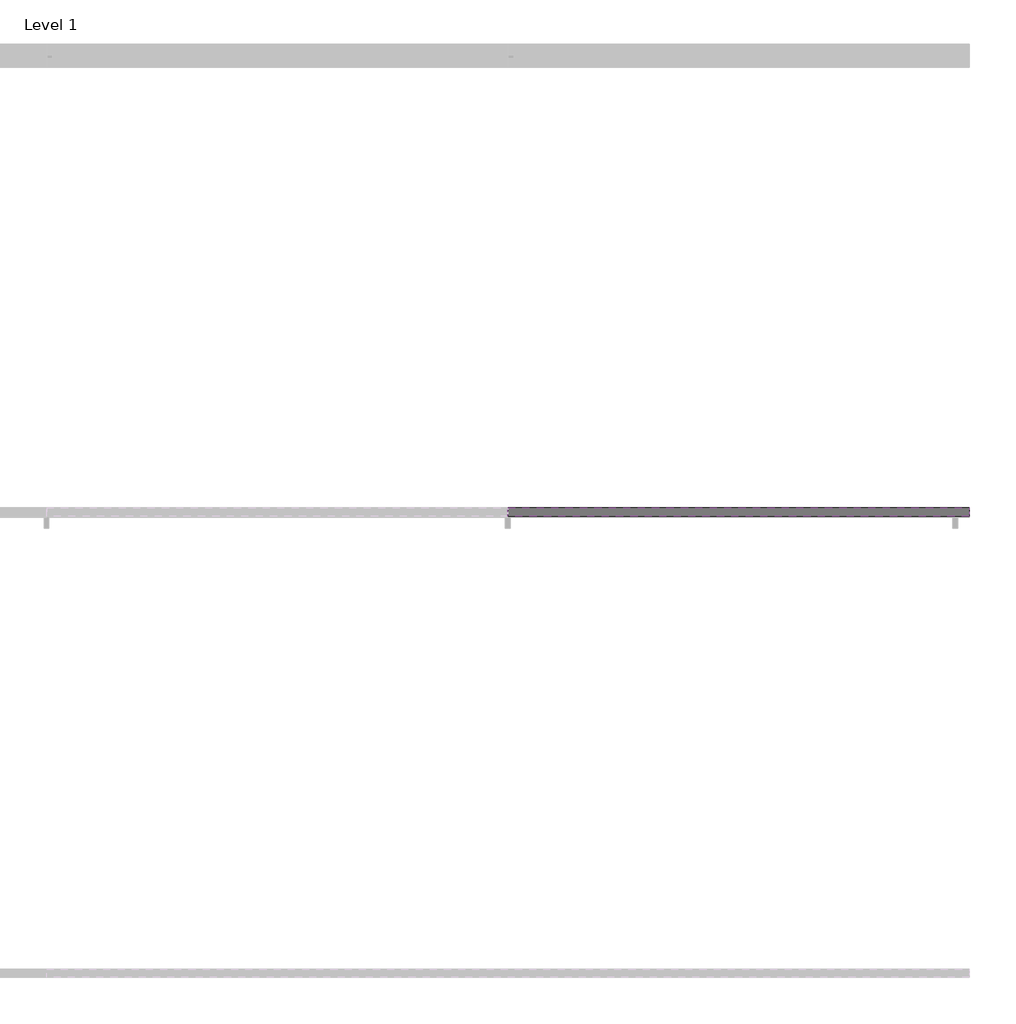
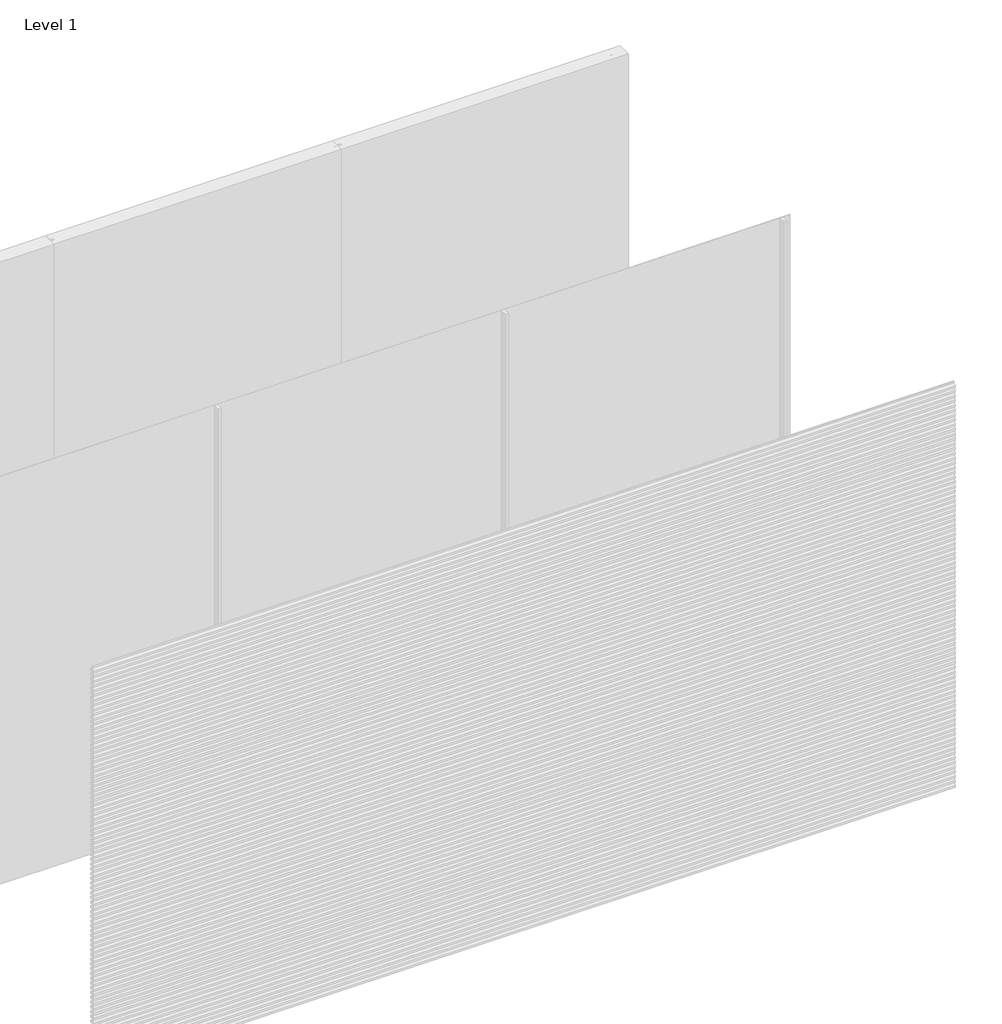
# One storey, part 13 of 17: 81 proxies.
"""IFC4 building model written with IfcOpenShell, lengths in millimetres."""

from ifc_helpers import new_model, si_unit, frame, origin, place, context, project, spatial, polyline, outline, extrude, element, save

model = new_model("IFC4")

# Units and contexts
model_context = context("Model", 3, world=origin())
ifc_project = project(units=[si_unit("LENGTHUNIT", "METRE", prefix="MILLI")], contexts=[model_context])

# Site, building, storey
site = spatial("IfcSite", under=ifc_project)
building = spatial("IfcBuilding", under=site)
storey = spatial("IfcBuildingStorey", under=building, Name="Level 1", Elevation=0.0)

# Proxies
placement = place(None, origin())
element("IfcBuildingElementProxy", 1, Name="Wall Sweeps", at=placement, inside=storey, context=model_context, shape_type="SweptSolid", body=[
    extrude(outline(polyline([(-5961.0, 2916.5), (-5961.0, 2901.5), (-5979.0, 2913.6411533), (-5997.0, 2901.5), (-5997.0, 2916.5), (-5980.0, 2927.9666448), (-5980.0, 2940.0), (-5978.0, 2940.0), (-5978.0, 2927.9666448), (-5961.0, 2916.5)])), frame((4000.0, 0.0, 0.0), z_axis=(1.0, 0.0, 0.0), x_axis=(0.0, 1.0, 0.0)), (0.0, 0.0, 1.0), 2000.0),
])
element("IfcBuildingElementProxy", 2, Name="Wall Sweeps", at=placement, inside=storey, context=model_context, shape_type="SweptSolid", body=[
    extrude(outline(polyline([(-5961.0, 2881.5), (-5961.0, 2866.5), (-5979.0, 2878.6411533), (-5997.0, 2866.5), (-5997.0, 2881.5), (-5980.0, 2892.9666448), (-5980.0, 2905.0), (-5978.0, 2905.0), (-5978.0, 2892.9666448), (-5961.0, 2881.5)])), frame((4000.0, 0.0, 0.0), z_axis=(1.0, 0.0, 0.0), x_axis=(0.0, 1.0, 0.0)), (0.0, 0.0, 1.0), 2000.0),
])
element("IfcBuildingElementProxy", 3, Name="Wall Sweeps", at=placement, inside=storey, context=model_context, shape_type="SweptSolid", body=[
    extrude(outline(polyline([(-5961.0, 2846.5), (-5961.0, 2831.5), (-5979.0, 2843.6411533), (-5997.0, 2831.5), (-5997.0, 2846.5), (-5980.0, 2857.9666448), (-5980.0, 2870.0), (-5978.0, 2870.0), (-5978.0, 2857.9666448), (-5961.0, 2846.5)])), frame((4000.0, 0.0, 0.0), z_axis=(1.0, 0.0, 0.0), x_axis=(0.0, 1.0, 0.0)), (0.0, 0.0, 1.0), 2000.0),
])
element("IfcBuildingElementProxy", 4, Name="Wall Sweeps", at=placement, inside=storey, context=model_context, shape_type="SweptSolid", body=[
    extrude(outline(polyline([(-5961.0, 2811.5), (-5961.0, 2796.5), (-5979.0, 2808.6411533), (-5997.0, 2796.5), (-5997.0, 2811.5), (-5980.0, 2822.9666448), (-5980.0, 2835.0), (-5978.0, 2835.0), (-5978.0, 2822.9666448), (-5961.0, 2811.5)])), frame((4000.0, 0.0, 0.0), z_axis=(1.0, 0.0, 0.0), x_axis=(0.0, 1.0, 0.0)), (0.0, 0.0, 1.0), 2000.0),
])
element("IfcBuildingElementProxy", 5, Name="Wall Sweeps", at=placement, inside=storey, context=model_context, shape_type="SweptSolid", body=[
    extrude(outline(polyline([(-5961.0, 2776.5), (-5961.0, 2761.5), (-5979.0, 2773.6411533), (-5997.0, 2761.5), (-5997.0, 2776.5), (-5980.0, 2787.9666448), (-5980.0, 2800.0), (-5978.0, 2800.0), (-5978.0, 2787.9666448), (-5961.0, 2776.5)])), frame((4000.0, 0.0, 0.0), z_axis=(1.0, 0.0, 0.0), x_axis=(0.0, 1.0, 0.0)), (0.0, 0.0, 1.0), 2000.0),
])
element("IfcBuildingElementProxy", 6, Name="Wall Sweeps", at=placement, inside=storey, context=model_context, shape_type="SweptSolid", body=[
    extrude(outline(polyline([(-5961.0, 2741.5), (-5961.0, 2726.5), (-5979.0, 2738.6411533), (-5997.0, 2726.5), (-5997.0, 2741.5), (-5980.0, 2752.9666448), (-5980.0, 2765.0), (-5978.0, 2765.0), (-5978.0, 2752.9666448), (-5961.0, 2741.5)])), frame((4000.0, 0.0, 0.0), z_axis=(1.0, 0.0, 0.0), x_axis=(0.0, 1.0, 0.0)), (0.0, 0.0, 1.0), 2000.0),
])
element("IfcBuildingElementProxy", 7, Name="Wall Sweeps", at=placement, inside=storey, context=model_context, shape_type="SweptSolid", body=[
    extrude(outline(polyline([(-5961.0, 2706.5), (-5961.0, 2691.5), (-5979.0, 2703.6411533), (-5997.0, 2691.5), (-5997.0, 2706.5), (-5980.0, 2717.9666448), (-5980.0, 2730.0), (-5978.0, 2730.0), (-5978.0, 2717.9666448), (-5961.0, 2706.5)])), frame((4000.0, 0.0, 0.0), z_axis=(1.0, 0.0, 0.0), x_axis=(0.0, 1.0, 0.0)), (0.0, 0.0, 1.0), 2000.0),
])
element("IfcBuildingElementProxy", 8, Name="Wall Sweeps", at=placement, inside=storey, context=model_context, shape_type="SweptSolid", body=[
    extrude(outline(polyline([(-5961.0, 2671.5), (-5961.0, 2656.5), (-5979.0, 2668.6411533), (-5997.0, 2656.5), (-5997.0, 2671.5), (-5980.0, 2682.9666448), (-5980.0, 2695.0), (-5978.0, 2695.0), (-5978.0, 2682.9666448), (-5961.0, 2671.5)])), frame((4000.0, 0.0, 0.0), z_axis=(1.0, 0.0, 0.0), x_axis=(0.0, 1.0, 0.0)), (0.0, 0.0, 1.0), 2000.0),
])
element("IfcBuildingElementProxy", 9, Name="Wall Sweeps", at=placement, inside=storey, context=model_context, shape_type="SweptSolid", body=[
    extrude(outline(polyline([(-5961.0, 2636.5), (-5961.0, 2621.5), (-5979.0, 2633.6411533), (-5997.0, 2621.5), (-5997.0, 2636.5), (-5980.0, 2647.9666448), (-5980.0, 2660.0), (-5978.0, 2660.0), (-5978.0, 2647.9666448), (-5961.0, 2636.5)])), frame((4000.0, 0.0, 0.0), z_axis=(1.0, 0.0, 0.0), x_axis=(0.0, 1.0, 0.0)), (0.0, 0.0, 1.0), 2000.0),
])
element("IfcBuildingElementProxy", 10, Name="Wall Sweeps", at=placement, inside=storey, context=model_context, shape_type="SweptSolid", body=[
    extrude(outline(polyline([(-5961.0, 2601.5), (-5961.0, 2586.5), (-5979.0, 2598.6411533), (-5997.0, 2586.5), (-5997.0, 2601.5), (-5980.0, 2612.9666448), (-5980.0, 2625.0), (-5978.0, 2625.0), (-5978.0, 2612.9666448), (-5961.0, 2601.5)])), frame((4000.0, 0.0, 0.0), z_axis=(1.0, 0.0, 0.0), x_axis=(0.0, 1.0, 0.0)), (0.0, 0.0, 1.0), 2000.0),
])
element("IfcBuildingElementProxy", 11, Name="Wall Sweeps", at=placement, inside=storey, context=model_context, shape_type="SweptSolid", body=[
    extrude(outline(polyline([(-5961.0, 2566.5), (-5961.0, 2551.5), (-5979.0, 2563.6411533), (-5997.0, 2551.5), (-5997.0, 2566.5), (-5980.0, 2577.9666448), (-5980.0, 2590.0), (-5978.0, 2590.0), (-5978.0, 2577.9666448), (-5961.0, 2566.5)])), frame((4000.0, 0.0, 0.0), z_axis=(1.0, 0.0, 0.0), x_axis=(0.0, 1.0, 0.0)), (0.0, 0.0, 1.0), 2000.0),
])
element("IfcBuildingElementProxy", 12, Name="Wall Sweeps", at=placement, inside=storey, context=model_context, shape_type="SweptSolid", body=[
    extrude(outline(polyline([(-5961.0, 2531.5), (-5961.0, 2516.5), (-5979.0, 2528.6411533), (-5997.0, 2516.5), (-5997.0, 2531.5), (-5980.0, 2542.9666448), (-5980.0, 2555.0), (-5978.0, 2555.0), (-5978.0, 2542.9666448), (-5961.0, 2531.5)])), frame((4000.0, 0.0, 0.0), z_axis=(1.0, 0.0, 0.0), x_axis=(0.0, 1.0, 0.0)), (0.0, 0.0, 1.0), 2000.0),
])
element("IfcBuildingElementProxy", 13, Name="Wall Sweeps", at=placement, inside=storey, context=model_context, shape_type="SweptSolid", body=[
    extrude(outline(polyline([(-5961.0, 2496.5), (-5961.0, 2481.5), (-5979.0, 2493.6411533), (-5997.0, 2481.5), (-5997.0, 2496.5), (-5980.0, 2507.9666448), (-5980.0, 2520.0), (-5978.0, 2520.0), (-5978.0, 2507.9666448), (-5961.0, 2496.5)])), frame((4000.0, 0.0, 0.0), z_axis=(1.0, 0.0, 0.0), x_axis=(0.0, 1.0, 0.0)), (0.0, 0.0, 1.0), 2000.0),
])
element("IfcBuildingElementProxy", 14, Name="Wall Sweeps", at=placement, inside=storey, context=model_context, shape_type="SweptSolid", body=[
    extrude(outline(polyline([(-5961.0, 2461.5), (-5961.0, 2446.5), (-5979.0, 2458.6411533), (-5997.0, 2446.5), (-5997.0, 2461.5), (-5980.0, 2472.9666448), (-5980.0, 2485.0), (-5978.0, 2485.0), (-5978.0, 2472.9666448), (-5961.0, 2461.5)])), frame((4000.0, 0.0, 0.0), z_axis=(1.0, 0.0, 0.0), x_axis=(0.0, 1.0, 0.0)), (0.0, 0.0, 1.0), 2000.0),
])
element("IfcBuildingElementProxy", 15, Name="Wall Sweeps", at=placement, inside=storey, context=model_context, shape_type="SweptSolid", body=[
    extrude(outline(polyline([(-5961.0, 2426.5), (-5961.0, 2411.5), (-5979.0, 2423.6411533), (-5997.0, 2411.5), (-5997.0, 2426.5), (-5980.0, 2437.9666448), (-5980.0, 2450.0), (-5978.0, 2450.0), (-5978.0, 2437.9666448), (-5961.0, 2426.5)])), frame((4000.0, 0.0, 0.0), z_axis=(1.0, 0.0, 0.0), x_axis=(0.0, 1.0, 0.0)), (0.0, 0.0, 1.0), 2000.0),
])
element("IfcBuildingElementProxy", 16, Name="Wall Sweeps", at=placement, inside=storey, context=model_context, shape_type="SweptSolid", body=[
    extrude(outline(polyline([(-5961.0, 2391.5), (-5961.0, 2376.5), (-5979.0, 2388.6411533), (-5997.0, 2376.5), (-5997.0, 2391.5), (-5980.0, 2402.9666448), (-5980.0, 2415.0), (-5978.0, 2415.0), (-5978.0, 2402.9666448), (-5961.0, 2391.5)])), frame((4000.0, 0.0, 0.0), z_axis=(1.0, 0.0, 0.0), x_axis=(0.0, 1.0, 0.0)), (0.0, 0.0, 1.0), 2000.0),
])
element("IfcBuildingElementProxy", 17, Name="Wall Sweeps", at=placement, inside=storey, context=model_context, shape_type="SweptSolid", body=[
    extrude(outline(polyline([(-5961.0, 2356.5), (-5961.0, 2341.5), (-5979.0, 2353.6411533), (-5997.0, 2341.5), (-5997.0, 2356.5), (-5980.0, 2367.9666448), (-5980.0, 2380.0), (-5978.0, 2380.0), (-5978.0, 2367.9666448), (-5961.0, 2356.5)])), frame((4000.0, 0.0, 0.0), z_axis=(1.0, 0.0, 0.0), x_axis=(0.0, 1.0, 0.0)), (0.0, 0.0, 1.0), 2000.0),
])
element("IfcBuildingElementProxy", 18, Name="Wall Sweeps", at=placement, inside=storey, context=model_context, shape_type="SweptSolid", body=[
    extrude(outline(polyline([(-5961.0, 2321.5), (-5961.0, 2306.5), (-5979.0, 2318.6411533), (-5997.0, 2306.5), (-5997.0, 2321.5), (-5980.0, 2332.9666448), (-5980.0, 2345.0), (-5978.0, 2345.0), (-5978.0, 2332.9666448), (-5961.0, 2321.5)])), frame((4000.0, 0.0, 0.0), z_axis=(1.0, 0.0, 0.0), x_axis=(0.0, 1.0, 0.0)), (0.0, 0.0, 1.0), 2000.0),
])
element("IfcBuildingElementProxy", 19, Name="Wall Sweeps", at=placement, inside=storey, context=model_context, shape_type="SweptSolid", body=[
    extrude(outline(polyline([(-5961.0, 2286.5), (-5961.0, 2271.5), (-5979.0, 2283.6411533), (-5997.0, 2271.5), (-5997.0, 2286.5), (-5980.0, 2297.9666448), (-5980.0, 2310.0), (-5978.0, 2310.0), (-5978.0, 2297.9666448), (-5961.0, 2286.5)])), frame((4000.0, 0.0, 0.0), z_axis=(1.0, 0.0, 0.0), x_axis=(0.0, 1.0, 0.0)), (0.0, 0.0, 1.0), 2000.0),
])
element("IfcBuildingElementProxy", 20, Name="Wall Sweeps", at=placement, inside=storey, context=model_context, shape_type="SweptSolid", body=[
    extrude(outline(polyline([(-5961.0, 2251.5), (-5961.0, 2236.5), (-5979.0, 2248.6411533), (-5997.0, 2236.5), (-5997.0, 2251.5), (-5980.0, 2262.9666448), (-5980.0, 2275.0), (-5978.0, 2275.0), (-5978.0, 2262.9666448), (-5961.0, 2251.5)])), frame((4000.0, 0.0, 0.0), z_axis=(1.0, 0.0, 0.0), x_axis=(0.0, 1.0, 0.0)), (0.0, 0.0, 1.0), 2000.0),
])
element("IfcBuildingElementProxy", 21, Name="Wall Sweeps", at=placement, inside=storey, context=model_context, shape_type="SweptSolid", body=[
    extrude(outline(polyline([(-5961.0, 2216.5), (-5961.0, 2201.5), (-5979.0, 2213.6411533), (-5997.0, 2201.5), (-5997.0, 2216.5), (-5980.0, 2227.9666448), (-5980.0, 2240.0), (-5978.0, 2240.0), (-5978.0, 2227.9666448), (-5961.0, 2216.5)])), frame((4000.0, 0.0, 0.0), z_axis=(1.0, 0.0, 0.0), x_axis=(0.0, 1.0, 0.0)), (0.0, 0.0, 1.0), 2000.0),
])
element("IfcBuildingElementProxy", 22, Name="Wall Sweeps", at=placement, inside=storey, context=model_context, shape_type="SweptSolid", body=[
    extrude(outline(polyline([(-5961.0, 2181.5), (-5961.0, 2166.5), (-5979.0, 2178.6411533), (-5997.0, 2166.5), (-5997.0, 2181.5), (-5980.0, 2192.9666448), (-5980.0, 2205.0), (-5978.0, 2205.0), (-5978.0, 2192.9666448), (-5961.0, 2181.5)])), frame((4000.0, 0.0, 0.0), z_axis=(1.0, 0.0, 0.0), x_axis=(0.0, 1.0, 0.0)), (0.0, 0.0, 1.0), 2000.0),
])
element("IfcBuildingElementProxy", 23, Name="Wall Sweeps", at=placement, inside=storey, context=model_context, shape_type="SweptSolid", body=[
    extrude(outline(polyline([(-5961.0, 2146.5), (-5961.0, 2131.5), (-5979.0, 2143.6411533), (-5997.0, 2131.5), (-5997.0, 2146.5), (-5980.0, 2157.9666448), (-5980.0, 2170.0), (-5978.0, 2170.0), (-5978.0, 2157.9666448), (-5961.0, 2146.5)])), frame((4000.0, 0.0, 0.0), z_axis=(1.0, 0.0, 0.0), x_axis=(0.0, 1.0, 0.0)), (0.0, 0.0, 1.0), 2000.0),
])
element("IfcBuildingElementProxy", 24, Name="Wall Sweeps", at=placement, inside=storey, context=model_context, shape_type="SweptSolid", body=[
    extrude(outline(polyline([(-5961.0, 2111.5), (-5961.0, 2096.5), (-5979.0, 2108.6411533), (-5997.0, 2096.5), (-5997.0, 2111.5), (-5980.0, 2122.9666448), (-5980.0, 2135.0), (-5978.0, 2135.0), (-5978.0, 2122.9666448), (-5961.0, 2111.5)])), frame((4000.0, 0.0, 0.0), z_axis=(1.0, 0.0, 0.0), x_axis=(0.0, 1.0, 0.0)), (0.0, 0.0, 1.0), 2000.0),
])
element("IfcBuildingElementProxy", 25, Name="Wall Sweeps", at=placement, inside=storey, context=model_context, shape_type="SweptSolid", body=[
    extrude(outline(polyline([(-5961.0, 2076.5), (-5961.0, 2061.5), (-5979.0, 2073.6411533), (-5997.0, 2061.5), (-5997.0, 2076.5), (-5980.0, 2087.9666448), (-5980.0, 2100.0), (-5978.0, 2100.0), (-5978.0, 2087.9666448), (-5961.0, 2076.5)])), frame((4000.0, 0.0, 0.0), z_axis=(1.0, 0.0, 0.0), x_axis=(0.0, 1.0, 0.0)), (0.0, 0.0, 1.0), 2000.0),
])
element("IfcBuildingElementProxy", 26, Name="Wall Sweeps", at=placement, inside=storey, context=model_context, shape_type="SweptSolid", body=[
    extrude(outline(polyline([(-5961.0, 2041.5), (-5961.0, 2026.5), (-5979.0, 2038.6411533), (-5997.0, 2026.5), (-5997.0, 2041.5), (-5980.0, 2052.9666448), (-5980.0, 2065.0), (-5978.0, 2065.0), (-5978.0, 2052.9666448), (-5961.0, 2041.5)])), frame((4000.0, 0.0, 0.0), z_axis=(1.0, 0.0, 0.0), x_axis=(0.0, 1.0, 0.0)), (0.0, 0.0, 1.0), 2000.0),
])
element("IfcBuildingElementProxy", 27, Name="Wall Sweeps", at=placement, inside=storey, context=model_context, shape_type="SweptSolid", body=[
    extrude(outline(polyline([(-5961.0, 2006.5), (-5961.0, 1991.5), (-5979.0, 2003.6411533), (-5997.0, 1991.5), (-5997.0, 2006.5), (-5980.0, 2017.9666448), (-5980.0, 2030.0), (-5978.0, 2030.0), (-5978.0, 2017.9666448), (-5961.0, 2006.5)])), frame((4000.0, 0.0, 0.0), z_axis=(1.0, 0.0, 0.0), x_axis=(0.0, 1.0, 0.0)), (0.0, 0.0, 1.0), 2000.0),
])
element("IfcBuildingElementProxy", 28, Name="Wall Sweeps", at=placement, inside=storey, context=model_context, shape_type="SweptSolid", body=[
    extrude(outline(polyline([(-5961.0, 1971.5), (-5961.0, 1956.5), (-5979.0, 1968.6411533), (-5997.0, 1956.5), (-5997.0, 1971.5), (-5980.0, 1982.9666448), (-5980.0, 1995.0), (-5978.0, 1995.0), (-5978.0, 1982.9666448), (-5961.0, 1971.5)])), frame((4000.0, 0.0, 0.0), z_axis=(1.0, 0.0, 0.0), x_axis=(0.0, 1.0, 0.0)), (0.0, 0.0, 1.0), 2000.0),
])
element("IfcBuildingElementProxy", 29, Name="Wall Sweeps", at=placement, inside=storey, context=model_context, shape_type="SweptSolid", body=[
    extrude(outline(polyline([(-5961.0, 1936.5), (-5961.0, 1921.5), (-5979.0, 1933.6411533), (-5997.0, 1921.5), (-5997.0, 1936.5), (-5980.0, 1947.9666448), (-5980.0, 1960.0), (-5978.0, 1960.0), (-5978.0, 1947.9666448), (-5961.0, 1936.5)])), frame((4000.0, 0.0, 0.0), z_axis=(1.0, 0.0, 0.0), x_axis=(0.0, 1.0, 0.0)), (0.0, 0.0, 1.0), 2000.0),
])
element("IfcBuildingElementProxy", 30, Name="Wall Sweeps", at=placement, inside=storey, context=model_context, shape_type="SweptSolid", body=[
    extrude(outline(polyline([(-5961.0, 1901.5), (-5961.0, 1886.5), (-5979.0, 1898.6411533), (-5997.0, 1886.5), (-5997.0, 1901.5), (-5980.0, 1912.9666448), (-5980.0, 1925.0), (-5978.0, 1925.0), (-5978.0, 1912.9666448), (-5961.0, 1901.5)])), frame((4000.0, 0.0, 0.0), z_axis=(1.0, 0.0, 0.0), x_axis=(0.0, 1.0, 0.0)), (0.0, 0.0, 1.0), 2000.0),
])
element("IfcBuildingElementProxy", 31, Name="Wall Sweeps", at=placement, inside=storey, context=model_context, shape_type="SweptSolid", body=[
    extrude(outline(polyline([(-5961.0, 1866.5), (-5961.0, 1851.5), (-5979.0, 1863.6411533), (-5997.0, 1851.5), (-5997.0, 1866.5), (-5980.0, 1877.9666448), (-5980.0, 1890.0), (-5978.0, 1890.0), (-5978.0, 1877.9666448), (-5961.0, 1866.5)])), frame((4000.0, 0.0, 0.0), z_axis=(1.0, 0.0, 0.0), x_axis=(0.0, 1.0, 0.0)), (0.0, 0.0, 1.0), 2000.0),
])
element("IfcBuildingElementProxy", 32, Name="Wall Sweeps", at=placement, inside=storey, context=model_context, shape_type="SweptSolid", body=[
    extrude(outline(polyline([(-5961.0, 1831.5), (-5961.0, 1816.5), (-5979.0, 1828.6411533), (-5997.0, 1816.5), (-5997.0, 1831.5), (-5980.0, 1842.9666448), (-5980.0, 1855.0), (-5978.0, 1855.0), (-5978.0, 1842.9666448), (-5961.0, 1831.5)])), frame((4000.0, 0.0, 0.0), z_axis=(1.0, 0.0, 0.0), x_axis=(0.0, 1.0, 0.0)), (0.0, 0.0, 1.0), 2000.0),
])
element("IfcBuildingElementProxy", 33, Name="Wall Sweeps", at=placement, inside=storey, context=model_context, shape_type="SweptSolid", body=[
    extrude(outline(polyline([(-5961.0, 1796.5), (-5961.0, 1781.5), (-5979.0, 1793.6411533), (-5997.0, 1781.5), (-5997.0, 1796.5), (-5980.0, 1807.9666448), (-5980.0, 1820.0), (-5978.0, 1820.0), (-5978.0, 1807.9666448), (-5961.0, 1796.5)])), frame((4000.0, 0.0, 0.0), z_axis=(1.0, 0.0, 0.0), x_axis=(0.0, 1.0, 0.0)), (0.0, 0.0, 1.0), 2000.0),
])
element("IfcBuildingElementProxy", 34, Name="Wall Sweeps", at=placement, inside=storey, context=model_context, shape_type="SweptSolid", body=[
    extrude(outline(polyline([(-5961.0, 1761.5), (-5961.0, 1746.5), (-5979.0, 1758.6411533), (-5997.0, 1746.5), (-5997.0, 1761.5), (-5980.0, 1772.9666448), (-5980.0, 1785.0), (-5978.0, 1785.0), (-5978.0, 1772.9666448), (-5961.0, 1761.5)])), frame((4000.0, 0.0, 0.0), z_axis=(1.0, 0.0, 0.0), x_axis=(0.0, 1.0, 0.0)), (0.0, 0.0, 1.0), 2000.0),
])
element("IfcBuildingElementProxy", 35, Name="Wall Sweeps", at=placement, inside=storey, context=model_context, shape_type="SweptSolid", body=[
    extrude(outline(polyline([(-5961.0, 1726.5), (-5961.0, 1711.5), (-5979.0, 1723.6411533), (-5997.0, 1711.5), (-5997.0, 1726.5), (-5980.0, 1737.9666448), (-5980.0, 1750.0), (-5978.0, 1750.0), (-5978.0, 1737.9666448), (-5961.0, 1726.5)])), frame((4000.0, 0.0, 0.0), z_axis=(1.0, 0.0, 0.0), x_axis=(0.0, 1.0, 0.0)), (0.0, 0.0, 1.0), 2000.0),
])
element("IfcBuildingElementProxy", 36, Name="Wall Sweeps", at=placement, inside=storey, context=model_context, shape_type="SweptSolid", body=[
    extrude(outline(polyline([(-5961.0, 1691.5), (-5961.0, 1676.5), (-5979.0, 1688.6411533), (-5997.0, 1676.5), (-5997.0, 1691.5), (-5980.0, 1702.9666448), (-5980.0, 1715.0), (-5978.0, 1715.0), (-5978.0, 1702.9666448), (-5961.0, 1691.5)])), frame((4000.0, 0.0, 0.0), z_axis=(1.0, 0.0, 0.0), x_axis=(0.0, 1.0, 0.0)), (0.0, 0.0, 1.0), 2000.0),
])
element("IfcBuildingElementProxy", 37, Name="Wall Sweeps", at=placement, inside=storey, context=model_context, shape_type="SweptSolid", body=[
    extrude(outline(polyline([(-5961.0, 1656.5), (-5961.0, 1641.5), (-5979.0, 1653.6411533), (-5997.0, 1641.5), (-5997.0, 1656.5), (-5980.0, 1667.9666448), (-5980.0, 1680.0), (-5978.0, 1680.0), (-5978.0, 1667.9666448), (-5961.0, 1656.5)])), frame((4000.0, 0.0, 0.0), z_axis=(1.0, 0.0, 0.0), x_axis=(0.0, 1.0, 0.0)), (0.0, 0.0, 1.0), 2000.0),
])
element("IfcBuildingElementProxy", 38, Name="Wall Sweeps", at=placement, inside=storey, context=model_context, shape_type="SweptSolid", body=[
    extrude(outline(polyline([(-5961.0, 1621.5), (-5961.0, 1606.5), (-5979.0, 1618.6411533), (-5997.0, 1606.5), (-5997.0, 1621.5), (-5980.0, 1632.9666448), (-5980.0, 1645.0), (-5978.0, 1645.0), (-5978.0, 1632.9666448), (-5961.0, 1621.5)])), frame((4000.0, 0.0, 0.0), z_axis=(1.0, 0.0, 0.0), x_axis=(0.0, 1.0, 0.0)), (0.0, 0.0, 1.0), 2000.0),
])
element("IfcBuildingElementProxy", 39, Name="Wall Sweeps", at=placement, inside=storey, context=model_context, shape_type="SweptSolid", body=[
    extrude(outline(polyline([(-5961.0, 1586.5), (-5961.0, 1571.5), (-5979.0, 1583.6411533), (-5997.0, 1571.5), (-5997.0, 1586.5), (-5980.0, 1597.9666448), (-5980.0, 1610.0), (-5978.0, 1610.0), (-5978.0, 1597.9666448), (-5961.0, 1586.5)])), frame((4000.0, 0.0, 0.0), z_axis=(1.0, 0.0, 0.0), x_axis=(0.0, 1.0, 0.0)), (0.0, 0.0, 1.0), 2000.0),
])
element("IfcBuildingElementProxy", 40, Name="Wall Sweeps", at=placement, inside=storey, context=model_context, shape_type="SweptSolid", body=[
    extrude(outline(polyline([(-5961.0, 1551.5), (-5961.0, 1536.5), (-5979.0, 1548.6411533), (-5997.0, 1536.5), (-5997.0, 1551.5), (-5980.0, 1562.9666448), (-5980.0, 1575.0), (-5978.0, 1575.0), (-5978.0, 1562.9666448), (-5961.0, 1551.5)])), frame((4000.0, 0.0, 0.0), z_axis=(1.0, 0.0, 0.0), x_axis=(0.0, 1.0, 0.0)), (0.0, 0.0, 1.0), 2000.0),
])
element("IfcBuildingElementProxy", 41, Name="Wall Sweeps", at=placement, inside=storey, context=model_context, shape_type="SweptSolid", body=[
    extrude(outline(polyline([(-5961.0, 1516.5), (-5961.0, 1501.5), (-5979.0, 1513.6411533), (-5997.0, 1501.5), (-5997.0, 1516.5), (-5980.0, 1527.9666448), (-5980.0, 1540.0), (-5978.0, 1540.0), (-5978.0, 1527.9666448), (-5961.0, 1516.5)])), frame((4000.0, 0.0, 0.0), z_axis=(1.0, 0.0, 0.0), x_axis=(0.0, 1.0, 0.0)), (0.0, 0.0, 1.0), 2000.0),
])
element("IfcBuildingElementProxy", 42, Name="Wall Sweeps", at=placement, inside=storey, context=model_context, shape_type="SweptSolid", body=[
    extrude(outline(polyline([(-5961.0, 1481.5), (-5961.0, 1466.5), (-5979.0, 1478.6411533), (-5997.0, 1466.5), (-5997.0, 1481.5), (-5980.0, 1492.9666448), (-5980.0, 1505.0), (-5978.0, 1505.0), (-5978.0, 1492.9666448), (-5961.0, 1481.5)])), frame((4000.0, 0.0, 0.0), z_axis=(1.0, 0.0, 0.0), x_axis=(0.0, 1.0, 0.0)), (0.0, 0.0, 1.0), 2000.0),
])
element("IfcBuildingElementProxy", 43, Name="Wall Sweeps", at=placement, inside=storey, context=model_context, shape_type="SweptSolid", body=[
    extrude(outline(polyline([(-5961.0, 1446.5), (-5961.0, 1431.5), (-5979.0, 1443.6411533), (-5997.0, 1431.5), (-5997.0, 1446.5), (-5980.0, 1457.9666448), (-5980.0, 1470.0), (-5978.0, 1470.0), (-5978.0, 1457.9666448), (-5961.0, 1446.5)])), frame((4000.0, 0.0, 0.0), z_axis=(1.0, 0.0, 0.0), x_axis=(0.0, 1.0, 0.0)), (0.0, 0.0, 1.0), 2000.0),
])
element("IfcBuildingElementProxy", 44, Name="Wall Sweeps", at=placement, inside=storey, context=model_context, shape_type="SweptSolid", body=[
    extrude(outline(polyline([(-5961.0, 1411.5), (-5961.0, 1396.5), (-5979.0, 1408.6411533), (-5997.0, 1396.5), (-5997.0, 1411.5), (-5980.0, 1422.9666448), (-5980.0, 1435.0), (-5978.0, 1435.0), (-5978.0, 1422.9666448), (-5961.0, 1411.5)])), frame((4000.0, 0.0, 0.0), z_axis=(1.0, 0.0, 0.0), x_axis=(0.0, 1.0, 0.0)), (0.0, 0.0, 1.0), 2000.0),
])
element("IfcBuildingElementProxy", 45, Name="Wall Sweeps", at=placement, inside=storey, context=model_context, shape_type="SweptSolid", body=[
    extrude(outline(polyline([(-5961.0, 1376.5), (-5961.0, 1361.5), (-5979.0, 1373.6411533), (-5997.0, 1361.5), (-5997.0, 1376.5), (-5980.0, 1387.9666448), (-5980.0, 1400.0), (-5978.0, 1400.0), (-5978.0, 1387.9666448), (-5961.0, 1376.5)])), frame((4000.0, 0.0, 0.0), z_axis=(1.0, 0.0, 0.0), x_axis=(0.0, 1.0, 0.0)), (0.0, 0.0, 1.0), 2000.0),
])
element("IfcBuildingElementProxy", 46, Name="Wall Sweeps", at=placement, inside=storey, context=model_context, shape_type="SweptSolid", body=[
    extrude(outline(polyline([(-5961.0, 1341.5), (-5961.0, 1326.5), (-5979.0, 1338.6411533), (-5997.0, 1326.5), (-5997.0, 1341.5), (-5980.0, 1352.9666448), (-5980.0, 1365.0), (-5978.0, 1365.0), (-5978.0, 1352.9666448), (-5961.0, 1341.5)])), frame((4000.0, 0.0, 0.0), z_axis=(1.0, 0.0, 0.0), x_axis=(0.0, 1.0, 0.0)), (0.0, 0.0, 1.0), 2000.0),
])
element("IfcBuildingElementProxy", 47, Name="Wall Sweeps", at=placement, inside=storey, context=model_context, shape_type="SweptSolid", body=[
    extrude(outline(polyline([(-5961.0, 1306.5), (-5961.0, 1291.5), (-5979.0, 1303.6411533), (-5997.0, 1291.5), (-5997.0, 1306.5), (-5980.0, 1317.9666448), (-5980.0, 1330.0), (-5978.0, 1330.0), (-5978.0, 1317.9666448), (-5961.0, 1306.5)])), frame((4000.0, 0.0, 0.0), z_axis=(1.0, 0.0, 0.0), x_axis=(0.0, 1.0, 0.0)), (0.0, 0.0, 1.0), 2000.0),
])
element("IfcBuildingElementProxy", 48, Name="Wall Sweeps", at=placement, inside=storey, context=model_context, shape_type="SweptSolid", body=[
    extrude(outline(polyline([(-5961.0, 1271.5), (-5961.0, 1256.5), (-5979.0, 1268.6411533), (-5997.0, 1256.5), (-5997.0, 1271.5), (-5980.0, 1282.9666448), (-5980.0, 1295.0), (-5978.0, 1295.0), (-5978.0, 1282.9666448), (-5961.0, 1271.5)])), frame((4000.0, 0.0, 0.0), z_axis=(1.0, 0.0, 0.0), x_axis=(0.0, 1.0, 0.0)), (0.0, 0.0, 1.0), 2000.0),
])
element("IfcBuildingElementProxy", 49, Name="Wall Sweeps", at=placement, inside=storey, context=model_context, shape_type="SweptSolid", body=[
    extrude(outline(polyline([(-5961.0, 1236.5), (-5961.0, 1221.5), (-5979.0, 1233.6411533), (-5997.0, 1221.5), (-5997.0, 1236.5), (-5980.0, 1247.9666448), (-5980.0, 1260.0), (-5978.0, 1260.0), (-5978.0, 1247.9666448), (-5961.0, 1236.5)])), frame((4000.0, 0.0, 0.0), z_axis=(1.0, 0.0, 0.0), x_axis=(0.0, 1.0, 0.0)), (0.0, 0.0, 1.0), 2000.0),
])
element("IfcBuildingElementProxy", 50, Name="Wall Sweeps", at=placement, inside=storey, context=model_context, shape_type="SweptSolid", body=[
    extrude(outline(polyline([(-5961.0, 1201.5), (-5961.0, 1186.5), (-5979.0, 1198.6411533), (-5997.0, 1186.5), (-5997.0, 1201.5), (-5980.0, 1212.9666448), (-5980.0, 1225.0), (-5978.0, 1225.0), (-5978.0, 1212.9666448), (-5961.0, 1201.5)])), frame((4000.0, 0.0, 0.0), z_axis=(1.0, 0.0, 0.0), x_axis=(0.0, 1.0, 0.0)), (0.0, 0.0, 1.0), 2000.0),
])
element("IfcBuildingElementProxy", 51, Name="Wall Sweeps", at=placement, inside=storey, context=model_context, shape_type="SweptSolid", body=[
    extrude(outline(polyline([(-5961.0, 1166.5), (-5961.0, 1151.5), (-5979.0, 1163.6411533), (-5997.0, 1151.5), (-5997.0, 1166.5), (-5980.0, 1177.9666448), (-5980.0, 1190.0), (-5978.0, 1190.0), (-5978.0, 1177.9666448), (-5961.0, 1166.5)])), frame((4000.0, 0.0, 0.0), z_axis=(1.0, 0.0, 0.0), x_axis=(0.0, 1.0, 0.0)), (0.0, 0.0, 1.0), 2000.0),
])
element("IfcBuildingElementProxy", 52, Name="Wall Sweeps", at=placement, inside=storey, context=model_context, shape_type="SweptSolid", body=[
    extrude(outline(polyline([(-5961.0, 1131.5), (-5961.0, 1116.5), (-5979.0, 1128.6411533), (-5997.0, 1116.5), (-5997.0, 1131.5), (-5980.0, 1142.9666448), (-5980.0, 1155.0), (-5978.0, 1155.0), (-5978.0, 1142.9666448), (-5961.0, 1131.5)])), frame((4000.0, 0.0, 0.0), z_axis=(1.0, 0.0, 0.0), x_axis=(0.0, 1.0, 0.0)), (0.0, 0.0, 1.0), 2000.0),
])
element("IfcBuildingElementProxy", 53, Name="Wall Sweeps", at=placement, inside=storey, context=model_context, shape_type="SweptSolid", body=[
    extrude(outline(polyline([(-5961.0, 1096.5), (-5961.0, 1081.5), (-5979.0, 1093.6411533), (-5997.0, 1081.5), (-5997.0, 1096.5), (-5980.0, 1107.9666448), (-5980.0, 1120.0), (-5978.0, 1120.0), (-5978.0, 1107.9666448), (-5961.0, 1096.5)])), frame((4000.0, 0.0, 0.0), z_axis=(1.0, 0.0, 0.0), x_axis=(0.0, 1.0, 0.0)), (0.0, 0.0, 1.0), 2000.0),
])
element("IfcBuildingElementProxy", 54, Name="Wall Sweeps", at=placement, inside=storey, context=model_context, shape_type="SweptSolid", body=[
    extrude(outline(polyline([(-5961.0, 1061.5), (-5961.0, 1046.5), (-5979.0, 1058.6411533), (-5997.0, 1046.5), (-5997.0, 1061.5), (-5980.0, 1072.9666448), (-5980.0, 1085.0), (-5978.0, 1085.0), (-5978.0, 1072.9666448), (-5961.0, 1061.5)])), frame((4000.0, 0.0, 0.0), z_axis=(1.0, 0.0, 0.0), x_axis=(0.0, 1.0, 0.0)), (0.0, 0.0, 1.0), 2000.0),
])
element("IfcBuildingElementProxy", 55, Name="Wall Sweeps", at=placement, inside=storey, context=model_context, shape_type="SweptSolid", body=[
    extrude(outline(polyline([(-5961.0, 1026.5), (-5961.0, 1011.5), (-5979.0, 1023.6411533), (-5997.0, 1011.5), (-5997.0, 1026.5), (-5980.0, 1037.9666448), (-5980.0, 1050.0), (-5978.0, 1050.0), (-5978.0, 1037.9666448), (-5961.0, 1026.5)])), frame((4000.0, 0.0, 0.0), z_axis=(1.0, 0.0, 0.0), x_axis=(0.0, 1.0, 0.0)), (0.0, 0.0, 1.0), 2000.0),
])
element("IfcBuildingElementProxy", 56, Name="Wall Sweeps", at=placement, inside=storey, context=model_context, shape_type="SweptSolid", body=[
    extrude(outline(polyline([(-5961.0, 991.5), (-5961.0, 976.5), (-5979.0, 988.6411533), (-5997.0, 976.5), (-5997.0, 991.5), (-5980.0, 1002.9666448), (-5980.0, 1015.0), (-5978.0, 1015.0), (-5978.0, 1002.9666448), (-5961.0, 991.5)])), frame((4000.0, 0.0, 0.0), z_axis=(1.0, 0.0, 0.0), x_axis=(0.0, 1.0, 0.0)), (0.0, 0.0, 1.0), 2000.0),
])
element("IfcBuildingElementProxy", 57, Name="Wall Sweeps", at=placement, inside=storey, context=model_context, shape_type="SweptSolid", body=[
    extrude(outline(polyline([(-5961.0, 956.5), (-5961.0, 941.5), (-5979.0, 953.6411533), (-5997.0, 941.5), (-5997.0, 956.5), (-5980.0, 967.9666448), (-5980.0, 980.0), (-5978.0, 980.0), (-5978.0, 967.9666448), (-5961.0, 956.5)])), frame((4000.0, 0.0, 0.0), z_axis=(1.0, 0.0, 0.0), x_axis=(0.0, 1.0, 0.0)), (0.0, 0.0, 1.0), 2000.0),
])
element("IfcBuildingElementProxy", 58, Name="Wall Sweeps", at=placement, inside=storey, context=model_context, shape_type="SweptSolid", body=[
    extrude(outline(polyline([(-5961.0, 921.5), (-5961.0, 906.5), (-5979.0, 918.6411533), (-5997.0, 906.5), (-5997.0, 921.5), (-5980.0, 932.9666448), (-5980.0, 945.0), (-5978.0, 945.0), (-5978.0, 932.9666448), (-5961.0, 921.5)])), frame((4000.0, 0.0, 0.0), z_axis=(1.0, 0.0, 0.0), x_axis=(0.0, 1.0, 0.0)), (0.0, 0.0, 1.0), 2000.0),
])
element("IfcBuildingElementProxy", 59, Name="Wall Sweeps", at=placement, inside=storey, context=model_context, shape_type="SweptSolid", body=[
    extrude(outline(polyline([(-5961.0, 886.5), (-5961.0, 871.5), (-5979.0, 883.6411533), (-5997.0, 871.5), (-5997.0, 886.5), (-5980.0, 897.9666448), (-5980.0, 910.0), (-5978.0, 910.0), (-5978.0, 897.9666448), (-5961.0, 886.5)])), frame((4000.0, 0.0, 0.0), z_axis=(1.0, 0.0, 0.0), x_axis=(0.0, 1.0, 0.0)), (0.0, 0.0, 1.0), 2000.0),
])
element("IfcBuildingElementProxy", 60, Name="Wall Sweeps", at=placement, inside=storey, context=model_context, shape_type="SweptSolid", body=[
    extrude(outline(polyline([(-5961.0, 851.5), (-5961.0, 836.5), (-5979.0, 848.6411533), (-5997.0, 836.5), (-5997.0, 851.5), (-5980.0, 862.9666448), (-5980.0, 875.0), (-5978.0, 875.0), (-5978.0, 862.9666448), (-5961.0, 851.5)])), frame((4000.0, 0.0, 0.0), z_axis=(1.0, 0.0, 0.0), x_axis=(0.0, 1.0, 0.0)), (0.0, 0.0, 1.0), 2000.0),
])
element("IfcBuildingElementProxy", 61, Name="Wall Sweeps", at=placement, inside=storey, context=model_context, shape_type="SweptSolid", body=[
    extrude(outline(polyline([(-5961.0, 816.5), (-5961.0, 801.5), (-5979.0, 813.6411533), (-5997.0, 801.5), (-5997.0, 816.5), (-5980.0, 827.9666448), (-5980.0, 840.0), (-5978.0, 840.0), (-5978.0, 827.9666448), (-5961.0, 816.5)])), frame((4000.0, 0.0, 0.0), z_axis=(1.0, 0.0, 0.0), x_axis=(0.0, 1.0, 0.0)), (0.0, 0.0, 1.0), 2000.0),
])
element("IfcBuildingElementProxy", 62, Name="Wall Sweeps", at=placement, inside=storey, context=model_context, shape_type="SweptSolid", body=[
    extrude(outline(polyline([(-5961.0, 781.5), (-5961.0, 766.5), (-5979.0, 778.6411533), (-5997.0, 766.5), (-5997.0, 781.5), (-5980.0, 792.9666448), (-5980.0, 805.0), (-5978.0, 805.0), (-5978.0, 792.9666448), (-5961.0, 781.5)])), frame((4000.0, 0.0, 0.0), z_axis=(1.0, 0.0, 0.0), x_axis=(0.0, 1.0, 0.0)), (0.0, 0.0, 1.0), 2000.0),
])
element("IfcBuildingElementProxy", 63, Name="Wall Sweeps", at=placement, inside=storey, context=model_context, shape_type="SweptSolid", body=[
    extrude(outline(polyline([(-5961.0, 746.5), (-5961.0, 731.5), (-5979.0, 743.6411533), (-5997.0, 731.5), (-5997.0, 746.5), (-5980.0, 757.9666448), (-5980.0, 770.0), (-5978.0, 770.0), (-5978.0, 757.9666448), (-5961.0, 746.5)])), frame((4000.0, 0.0, 0.0), z_axis=(1.0, 0.0, 0.0), x_axis=(0.0, 1.0, 0.0)), (0.0, 0.0, 1.0), 2000.0),
])
element("IfcBuildingElementProxy", 64, Name="Wall Sweeps", at=placement, inside=storey, context=model_context, shape_type="SweptSolid", body=[
    extrude(outline(polyline([(-5961.0, 711.5), (-5961.0, 696.5), (-5979.0, 708.6411533), (-5997.0, 696.5), (-5997.0, 711.5), (-5980.0, 722.9666448), (-5980.0, 735.0), (-5978.0, 735.0), (-5978.0, 722.9666448), (-5961.0, 711.5)])), frame((4000.0, 0.0, 0.0), z_axis=(1.0, 0.0, 0.0), x_axis=(0.0, 1.0, 0.0)), (0.0, 0.0, 1.0), 2000.0),
])
element("IfcBuildingElementProxy", 65, Name="Wall Sweeps", at=placement, inside=storey, context=model_context, shape_type="SweptSolid", body=[
    extrude(outline(polyline([(-5961.0, 676.5), (-5961.0, 661.5), (-5979.0, 673.6411533), (-5997.0, 661.5), (-5997.0, 676.5), (-5980.0, 687.9666448), (-5980.0, 700.0), (-5978.0, 700.0), (-5978.0, 687.9666448), (-5961.0, 676.5)])), frame((4000.0, 0.0, 0.0), z_axis=(1.0, 0.0, 0.0), x_axis=(0.0, 1.0, 0.0)), (0.0, 0.0, 1.0), 2000.0),
])
element("IfcBuildingElementProxy", 66, Name="Wall Sweeps", at=placement, inside=storey, context=model_context, shape_type="SweptSolid", body=[
    extrude(outline(polyline([(-5961.0, 641.5), (-5961.0, 626.5), (-5979.0, 638.6411533), (-5997.0, 626.5), (-5997.0, 641.5), (-5980.0, 652.9666448), (-5980.0, 665.0), (-5978.0, 665.0), (-5978.0, 652.9666448), (-5961.0, 641.5)])), frame((4000.0, 0.0, 0.0), z_axis=(1.0, 0.0, 0.0), x_axis=(0.0, 1.0, 0.0)), (0.0, 0.0, 1.0), 2000.0),
])
element("IfcBuildingElementProxy", 67, Name="Wall Sweeps", at=placement, inside=storey, context=model_context, shape_type="SweptSolid", body=[
    extrude(outline(polyline([(-5961.0, 606.5), (-5961.0, 591.5), (-5979.0, 603.6411533), (-5997.0, 591.5), (-5997.0, 606.5), (-5980.0, 617.9666448), (-5980.0, 630.0), (-5978.0, 630.0), (-5978.0, 617.9666448), (-5961.0, 606.5)])), frame((4000.0, 0.0, 0.0), z_axis=(1.0, 0.0, 0.0), x_axis=(0.0, 1.0, 0.0)), (0.0, 0.0, 1.0), 2000.0),
])
element("IfcBuildingElementProxy", 68, Name="Wall Sweeps", at=placement, inside=storey, context=model_context, shape_type="SweptSolid", body=[
    extrude(outline(polyline([(-5961.0, 571.5), (-5961.0, 556.5), (-5979.0, 568.6411533), (-5997.0, 556.5), (-5997.0, 571.5), (-5980.0, 582.9666448), (-5980.0, 595.0), (-5978.0, 595.0), (-5978.0, 582.9666448), (-5961.0, 571.5)])), frame((4000.0, 0.0, 0.0), z_axis=(1.0, 0.0, 0.0), x_axis=(0.0, 1.0, 0.0)), (0.0, 0.0, 1.0), 2000.0),
])
element("IfcBuildingElementProxy", 69, Name="Wall Sweeps", at=placement, inside=storey, context=model_context, shape_type="SweptSolid", body=[
    extrude(outline(polyline([(-5961.0, 536.5), (-5961.0, 521.5), (-5979.0, 533.6411533), (-5997.0, 521.5), (-5997.0, 536.5), (-5980.0, 547.9666448), (-5980.0, 560.0), (-5978.0, 560.0), (-5978.0, 547.9666448), (-5961.0, 536.5)])), frame((4000.0, 0.0, 0.0), z_axis=(1.0, 0.0, 0.0), x_axis=(0.0, 1.0, 0.0)), (0.0, 0.0, 1.0), 2000.0),
])
element("IfcBuildingElementProxy", 70, Name="Wall Sweeps", at=placement, inside=storey, context=model_context, shape_type="SweptSolid", body=[
    extrude(outline(polyline([(-5961.0, 501.5), (-5961.0, 486.5), (-5979.0, 498.6411533), (-5997.0, 486.5), (-5997.0, 501.5), (-5980.0, 512.9666448), (-5980.0, 525.0), (-5978.0, 525.0), (-5978.0, 512.9666448), (-5961.0, 501.5)])), frame((4000.0, 0.0, 0.0), z_axis=(1.0, 0.0, 0.0), x_axis=(0.0, 1.0, 0.0)), (0.0, 0.0, 1.0), 2000.0),
])
element("IfcBuildingElementProxy", 71, Name="Wall Sweeps", at=placement, inside=storey, context=model_context, shape_type="SweptSolid", body=[
    extrude(outline(polyline([(-5961.0, 466.5), (-5961.0, 451.5), (-5979.0, 463.6411533), (-5997.0, 451.5), (-5997.0, 466.5), (-5980.0, 477.9666448), (-5980.0, 490.0), (-5978.0, 490.0), (-5978.0, 477.9666448), (-5961.0, 466.5)])), frame((4000.0, 0.0, 0.0), z_axis=(1.0, 0.0, 0.0), x_axis=(0.0, 1.0, 0.0)), (0.0, 0.0, 1.0), 2000.0),
])
element("IfcBuildingElementProxy", 72, Name="Wall Sweeps", at=placement, inside=storey, context=model_context, shape_type="SweptSolid", body=[
    extrude(outline(polyline([(-5961.0, 431.5), (-5961.0, 416.5), (-5979.0, 428.6411533), (-5997.0, 416.5), (-5997.0, 431.5), (-5980.0, 442.9666448), (-5980.0, 455.0), (-5978.0, 455.0), (-5978.0, 442.9666448), (-5961.0, 431.5)])), frame((4000.0, 0.0, 0.0), z_axis=(1.0, 0.0, 0.0), x_axis=(0.0, 1.0, 0.0)), (0.0, 0.0, 1.0), 2000.0),
])
element("IfcBuildingElementProxy", 73, Name="Wall Sweeps", at=placement, inside=storey, context=model_context, shape_type="SweptSolid", body=[
    extrude(outline(polyline([(-5961.0, 396.5), (-5961.0, 381.5), (-5979.0, 393.6411533), (-5997.0, 381.5), (-5997.0, 396.5), (-5980.0, 407.9666448), (-5980.0, 420.0), (-5978.0, 420.0), (-5978.0, 407.9666448), (-5961.0, 396.5)])), frame((4000.0, 0.0, 0.0), z_axis=(1.0, 0.0, 0.0), x_axis=(0.0, 1.0, 0.0)), (0.0, 0.0, 1.0), 2000.0),
])
element("IfcBuildingElementProxy", 74, Name="Wall Sweeps", at=placement, inside=storey, context=model_context, shape_type="SweptSolid", body=[
    extrude(outline(polyline([(-5961.0, 361.5), (-5961.0, 346.5), (-5979.0, 358.6411533), (-5997.0, 346.5), (-5997.0, 361.5), (-5980.0, 372.9666448), (-5980.0, 385.0), (-5978.0, 385.0), (-5978.0, 372.9666448), (-5961.0, 361.5)])), frame((4000.0, 0.0, 0.0), z_axis=(1.0, 0.0, 0.0), x_axis=(0.0, 1.0, 0.0)), (0.0, 0.0, 1.0), 2000.0),
])
element("IfcBuildingElementProxy", 75, Name="Wall Sweeps", at=placement, inside=storey, context=model_context, shape_type="SweptSolid", body=[
    extrude(outline(polyline([(-5961.0, 326.5), (-5961.0, 311.5), (-5979.0, 323.6411533), (-5997.0, 311.5), (-5997.0, 326.5), (-5980.0, 337.9666448), (-5980.0, 350.0), (-5978.0, 350.0), (-5978.0, 337.9666448), (-5961.0, 326.5)])), frame((4000.0, 0.0, 0.0), z_axis=(1.0, 0.0, 0.0), x_axis=(0.0, 1.0, 0.0)), (0.0, 0.0, 1.0), 2000.0),
])
element("IfcBuildingElementProxy", 76, Name="Wall Sweeps", at=placement, inside=storey, context=model_context, shape_type="SweptSolid", body=[
    extrude(outline(polyline([(-5961.0, 291.5), (-5961.0, 276.5), (-5979.0, 288.6411533), (-5997.0, 276.5), (-5997.0, 291.5), (-5980.0, 302.9666448), (-5980.0, 315.0), (-5978.0, 315.0), (-5978.0, 302.9666448), (-5961.0, 291.5)])), frame((4000.0, 0.0, 0.0), z_axis=(1.0, 0.0, 0.0), x_axis=(0.0, 1.0, 0.0)), (0.0, 0.0, 1.0), 2000.0),
])
element("IfcBuildingElementProxy", 77, Name="Wall Sweeps", at=placement, inside=storey, context=model_context, shape_type="SweptSolid", body=[
    extrude(outline(polyline([(-5961.0, 256.5), (-5961.0, 241.5), (-5979.0, 253.6411533), (-5997.0, 241.5), (-5997.0, 256.5), (-5980.0, 267.9666448), (-5980.0, 280.0), (-5978.0, 280.0), (-5978.0, 267.9666448), (-5961.0, 256.5)])), frame((4000.0, 0.0, 0.0), z_axis=(1.0, 0.0, 0.0), x_axis=(0.0, 1.0, 0.0)), (0.0, 0.0, 1.0), 2000.0),
])
element("IfcBuildingElementProxy", 78, Name="Wall Sweeps", at=placement, inside=storey, context=model_context, shape_type="SweptSolid", body=[
    extrude(outline(polyline([(-5961.0, 221.5), (-5961.0, 206.5), (-5979.0, 218.6411533), (-5997.0, 206.5), (-5997.0, 221.5), (-5980.0, 232.9666448), (-5980.0, 245.0), (-5978.0, 245.0), (-5978.0, 232.9666448), (-5961.0, 221.5)])), frame((4000.0, 0.0, 0.0), z_axis=(1.0, 0.0, 0.0), x_axis=(0.0, 1.0, 0.0)), (0.0, 0.0, 1.0), 2000.0),
])
element("IfcBuildingElementProxy", 79, Name="Wall Sweeps", at=placement, inside=storey, context=model_context, shape_type="SweptSolid", body=[
    extrude(outline(polyline([(-5961.0, 186.5), (-5961.0, 171.5), (-5979.0, 183.6411533), (-5997.0, 171.5), (-5997.0, 186.5), (-5980.0, 197.9666448), (-5980.0, 210.0), (-5978.0, 210.0), (-5978.0, 197.9666448), (-5961.0, 186.5)])), frame((4000.0, 0.0, 0.0), z_axis=(1.0, 0.0, 0.0), x_axis=(0.0, 1.0, 0.0)), (0.0, 0.0, 1.0), 2000.0),
])
element("IfcBuildingElementProxy", 80, Name="Wall Sweeps", at=placement, inside=storey, context=model_context, shape_type="SweptSolid", body=[
    extrude(outline(polyline([(-5961.0, 151.5), (-5961.0, 136.5), (-5979.0, 148.6411533), (-5997.0, 136.5), (-5997.0, 151.5), (-5980.0, 162.9666448), (-5980.0, 175.0), (-5978.0, 175.0), (-5978.0, 162.9666448), (-5961.0, 151.5)])), frame((4000.0, 0.0, 0.0), z_axis=(1.0, 0.0, 0.0), x_axis=(0.0, 1.0, 0.0)), (0.0, 0.0, 1.0), 2000.0),
])
element("IfcBuildingElementProxy", 81, Name="Wall Sweeps", at=placement, inside=storey, context=model_context, shape_type="SweptSolid", body=[
    extrude(outline(polyline([(-5961.0, 116.5), (-5961.0, 101.5), (-5979.0, 113.6411533), (-5997.0, 101.5), (-5997.0, 116.5), (-5980.0, 127.9666448), (-5980.0, 140.0), (-5978.0, 140.0), (-5978.0, 127.9666448), (-5961.0, 116.5)])), frame((4000.0, 0.0, 0.0), z_axis=(1.0, 0.0, 0.0), x_axis=(0.0, 1.0, 0.0)), (0.0, 0.0, 1.0), 2000.0),
])

save(model, "model.ifc")
